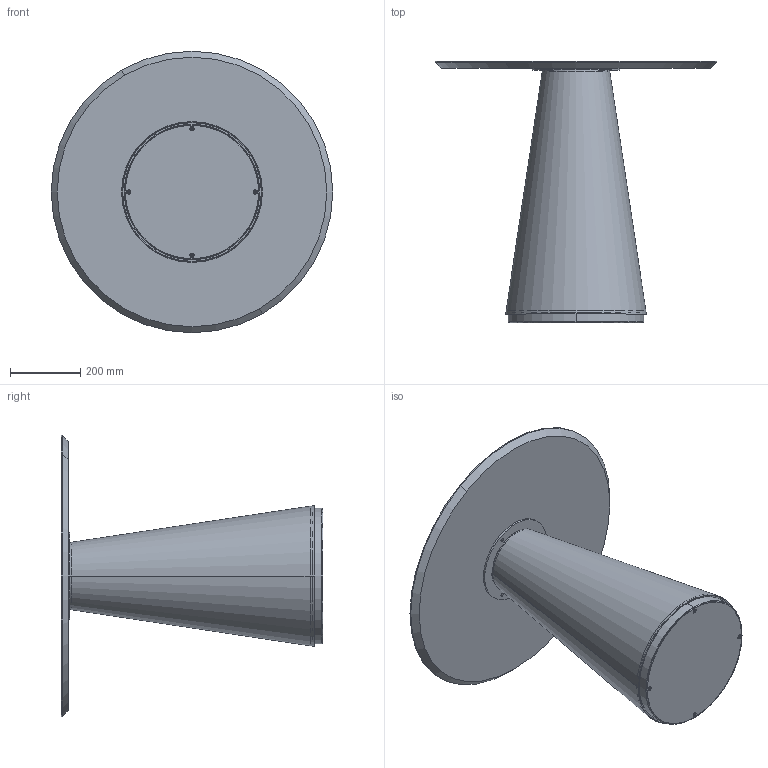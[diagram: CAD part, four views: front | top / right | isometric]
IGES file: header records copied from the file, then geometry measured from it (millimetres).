
Start section: SolidWorks IGES file using analytic representation for surfaces
Global section: file name: Y:\eforma\TECNICO\SOLIDWORKS\E-FORMA\5-TAVOLINI BISTRO\TED\02 parts\TE20W.IGS; native system: SolidWorks 2022; preprocessor: SolidWorks 2022; author: eforma.tech; date: 240808.095129; units: millimetre
Bounding box: 800 x 743.5 x 800 mm (x, y, z)
Volume: 11078502.7 mm3; surface area: 2836309.1 mm2
Topology: 14 solids, 14 shells, 376 faces, 795 edges, 436 vertices
Faces by surface type: revolution 201, plane 175
